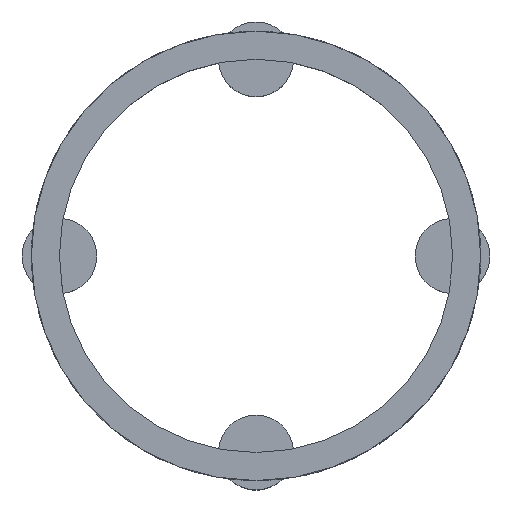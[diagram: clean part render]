
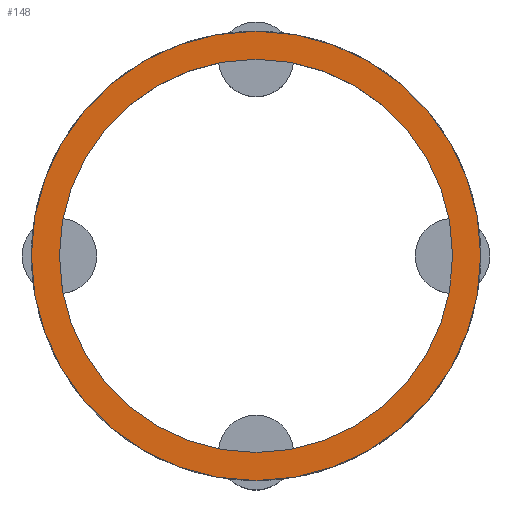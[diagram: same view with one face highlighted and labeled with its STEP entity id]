
A CAD part, top view. The second image highlights one B-rep face of the part: STEP entity #148.
In plain terms, the highlighted planar face has unit normal (0, 0, 1).
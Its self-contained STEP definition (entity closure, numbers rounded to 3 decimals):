
#103=PLANE('',#738);
#127=FACE_BOUND('',#245,.T.);
#128=FACE_BOUND('',#246,.T.);
#148=ADVANCED_FACE('',(#127,#128),#103,.T.);
#245=EDGE_LOOP('',(#375));
#246=EDGE_LOOP('',(#376));
#375=ORIENTED_EDGE('',*,*,#534,.F.);
#376=ORIENTED_EDGE('',*,*,#587,.T.);
#482=VERTEX_POINT('',#1040);
#527=VERTEX_POINT('',#1150);
#534=EDGE_CURVE('',#482,#482,#616,.T.);
#587=EDGE_CURVE('',#527,#527,#655,.T.);
#616=CIRCLE('',#686,10.5);
#655=CIRCLE('',#737,12.);
#686=AXIS2_PLACEMENT_3D('',#1039,#803,#804);
#737=AXIS2_PLACEMENT_3D('',#1149,#919,#920);
#738=AXIS2_PLACEMENT_3D('',#1151,#921,#922);
#803=DIRECTION('',(0.,0.,1.));
#804=DIRECTION('',(1.,0.,0.));
#919=DIRECTION('',(0.,0.,1.));
#920=DIRECTION('',(1.,0.,0.));
#921=DIRECTION('',(0.,0.,1.));
#922=DIRECTION('',(1.,0.,0.));
#1039=CARTESIAN_POINT('',(0.,0.,6.));
#1040=CARTESIAN_POINT('',(10.5,0.,6.));
#1149=CARTESIAN_POINT('',(0.,0.,6.));
#1150=CARTESIAN_POINT('',(12.,0.,6.));
#1151=CARTESIAN_POINT('',(0.,0.,6.));
